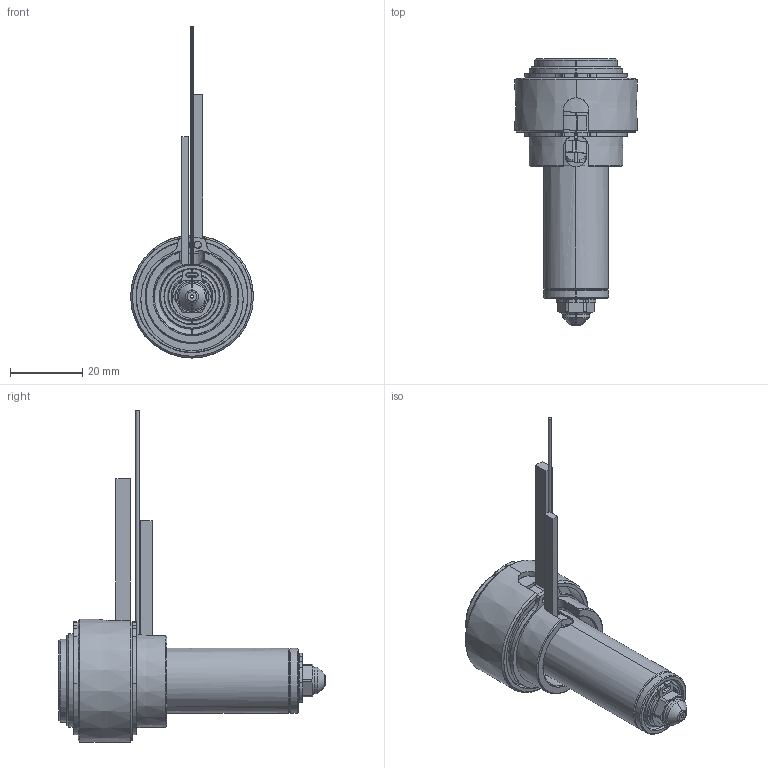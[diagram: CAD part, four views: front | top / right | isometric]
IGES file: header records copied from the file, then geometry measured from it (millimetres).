
Start section: SolidWorks IGES file using analytic representation for surfaces
Global section: file name: C:\Documents and Settings\ws-20\Desktop\TEM\UGER2501-M-A-0 [Øb-0.90 ØC-5.0].IGS; native system: SolidWorks 2012; preprocessor: SolidWorks 2012; author: ws-20; date: 120405.104851; units: millimetre
Bounding box: 34 x 73.9 x 91.9 mm (x, y, z)
Surface area: 19181 mm2 (no closed solid volume)
Topology: 0 solids, 0 shells, 194 faces, 2495 edges, 2495 vertices
Faces by surface type: revolution 123, bspline 71
